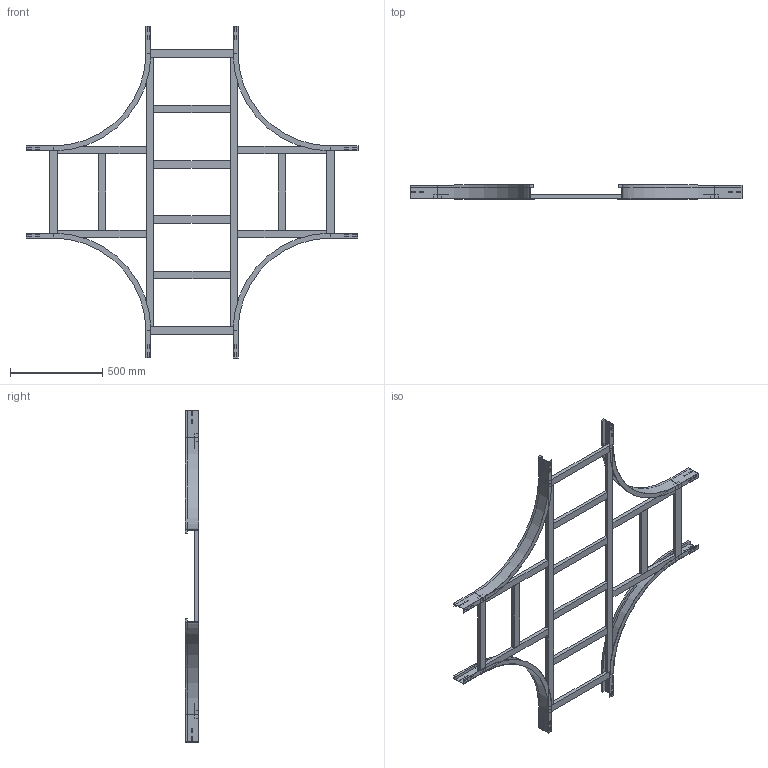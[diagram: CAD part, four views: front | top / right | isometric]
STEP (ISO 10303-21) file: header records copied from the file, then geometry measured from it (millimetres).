
FILE_DESCRIPTION (( 'STEP AP214' ), '1' );
FILE_NAME ('17B5C500.step', '2025-02-21T15:58:03', ( '' ), ( '' ), 'SwSTEP 2.0', 'SolidWorks 2023', '' );
FILE_SCHEMA (( 'AUTOMOTIVE_DESIGN' ));
Length unit declared in the file: millimetre
Products named in the file (7): TRAVERSINO_500; 17B5C500; LONGH.INTERNO 90°_H75_R500; TRAVERSINO_VERT_R500; TRAVERSINO_LONG._R500+500; TRAVERSINO_COPPIA_500; TRAVERSINO_INTERMEDIO_R500+500
Assembly tree (20 placements, depth 2):
  17B5C500
    LONGH.INTERNO 90°_H75_R500  x4
    TRAVERSINO_500  x4
    TRAVERSINO_LONG._R500+500  x2
    TRAVERSINO_INTERMEDIO_R500+500  x4
    TRAVERSINO_VERT_R500  x4
    TRAVERSINO_COPPIA_500  x2
Bounding box: 1800 x 75 x 1800 mm (x, y, z)
Volume: 9258809.8 mm3; surface area: 2184301.9 mm2
Topology: 20 solids, 20 shells, 328 faces, 800 edges, 512 vertices
Faces by surface type: plane 312, cylinder 16
Entity records: 2860 total; most frequent: CARTESIAN_POINT 459, DIRECTION 442, ORIENTED_EDGE 424, EDGE_CURVE 212, VECTOR 204, LINE 204, VERTEX_POINT 136, AXIS2_PLACEMENT_3D 119
